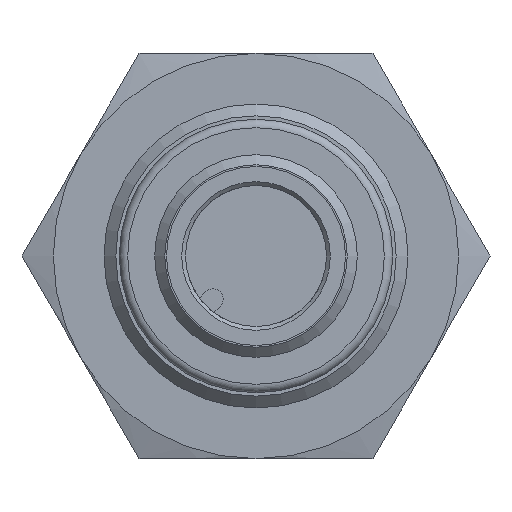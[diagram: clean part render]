
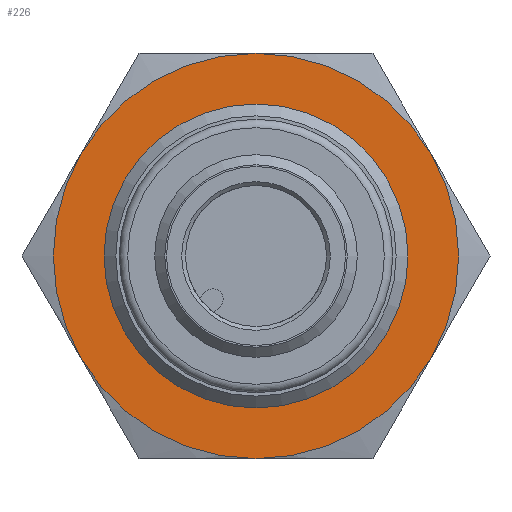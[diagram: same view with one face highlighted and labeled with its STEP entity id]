
A CAD part, left-side view. The second image highlights one B-rep face of the part: STEP entity #226.
In plain terms, the highlighted planar face has unit normal (-1, 0, 0) as drawn and (1, 0, 0) by its records, which use the part's own axes.
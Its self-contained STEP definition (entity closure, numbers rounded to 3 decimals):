
#226 = ADVANCED_FACE( '', ( #374, #375 ), #376, .F. );
#374 = FACE_BOUND( '', #546, .T. );
#375 = FACE_OUTER_BOUND( '', #547, .T. );
#376 = PLANE( '', #548 );
#546 = EDGE_LOOP( '', ( #840 ) );
#547 = EDGE_LOOP( '', ( #841, #842, #843, #844, #845, #846 ) );
#548 = AXIS2_PLACEMENT_3D( '', #847, #848, #849 );
#840 = ORIENTED_EDGE( '', *, *, #1038, .F. );
#841 = ORIENTED_EDGE( '', *, *, #1039, .T. );
#842 = ORIENTED_EDGE( '', *, *, #1040, .T. );
#843 = ORIENTED_EDGE( '', *, *, #1041, .T. );
#844 = ORIENTED_EDGE( '', *, *, #1042, .T. );
#845 = ORIENTED_EDGE( '', *, *, #1043, .T. );
#846 = ORIENTED_EDGE( '', *, *, #1044, .T. );
#847 = CARTESIAN_POINT( '', ( 4., 12., 0. ) );
#848 = DIRECTION( '', ( -1., 0., 0. ) );
#849 = DIRECTION( '', ( 0., 0., 1. ) );
#1038 = EDGE_CURVE( '', #1190, #1190, #1191, .T. );
#1039 = EDGE_CURVE( '', #1192, #1193, #1194, .T. );
#1040 = EDGE_CURVE( '', #1193, #1172, #1195, .T. );
#1041 = EDGE_CURVE( '', #1172, #1163, #1196, .T. );
#1042 = EDGE_CURVE( '', #1163, #1184, #1197, .T. );
#1043 = EDGE_CURVE( '', #1184, #1198, #1199, .T. );
#1044 = EDGE_CURVE( '', #1198, #1192, #1200, .T. );
#1163 = VERTEX_POINT( '', #1858 );
#1172 = VERTEX_POINT( '', #1888 );
#1184 = VERTEX_POINT( '', #1922 );
#1190 = VERTEX_POINT( '', #1948 );
#1191 = CIRCLE( '', #1949, 9. );
#1192 = VERTEX_POINT( '', #1950 );
#1193 = VERTEX_POINT( '', #1951 );
#1194 = CIRCLE( '', #1952, 12. );
#1195 = CIRCLE( '', #1953, 12. );
#1196 = CIRCLE( '', #1954, 12. );
#1197 = CIRCLE( '', #1955, 12. );
#1198 = VERTEX_POINT( '', #1956 );
#1199 = CIRCLE( '', #1957, 12. );
#1200 = CIRCLE( '', #1958, 12. );
#1858 = CARTESIAN_POINT( '', ( 4., 0., 12. ) );
#1888 = CARTESIAN_POINT( '', ( 4., 10.392, 6. ) );
#1922 = CARTESIAN_POINT( '', ( 4., -10.392, 6. ) );
#1948 = CARTESIAN_POINT( '', ( 4., 0., -9. ) );
#1949 = AXIS2_PLACEMENT_3D( '', #2138, #2139, #2140 );
#1950 = CARTESIAN_POINT( '', ( 4., 0., -12. ) );
#1951 = CARTESIAN_POINT( '', ( 4., 10.392, -6. ) );
#1952 = AXIS2_PLACEMENT_3D( '', #2141, #2142, #2143 );
#1953 = AXIS2_PLACEMENT_3D( '', #2144, #2145, #2146 );
#1954 = AXIS2_PLACEMENT_3D( '', #2147, #2148, #2149 );
#1955 = AXIS2_PLACEMENT_3D( '', #2150, #2151, #2152 );
#1956 = CARTESIAN_POINT( '', ( 4., -10.392, -6. ) );
#1957 = AXIS2_PLACEMENT_3D( '', #2153, #2154, #2155 );
#1958 = AXIS2_PLACEMENT_3D( '', #2156, #2157, #2158 );
#2138 = CARTESIAN_POINT( '', ( 4., 0., 0. ) );
#2139 = DIRECTION( '', ( 1., 0., 0. ) );
#2140 = DIRECTION( '', ( 0., 0., -1. ) );
#2141 = CARTESIAN_POINT( '', ( 4., 0., 0. ) );
#2142 = DIRECTION( '', ( 1., 0., 0. ) );
#2143 = DIRECTION( '', ( 0., 0., -1. ) );
#2144 = CARTESIAN_POINT( '', ( 4., 0., 0. ) );
#2145 = DIRECTION( '', ( 1., 0., 0. ) );
#2146 = DIRECTION( '', ( 0., 0., -1. ) );
#2147 = CARTESIAN_POINT( '', ( 4., 0., 0. ) );
#2148 = DIRECTION( '', ( 1., 0., 0. ) );
#2149 = DIRECTION( '', ( 0., 0., -1. ) );
#2150 = CARTESIAN_POINT( '', ( 4., 0., 0. ) );
#2151 = DIRECTION( '', ( 1., 0., 0. ) );
#2152 = DIRECTION( '', ( 0., 0., -1. ) );
#2153 = CARTESIAN_POINT( '', ( 4., 0., 0. ) );
#2154 = DIRECTION( '', ( 1., 0., 0. ) );
#2155 = DIRECTION( '', ( 0., 0., -1. ) );
#2156 = CARTESIAN_POINT( '', ( 4., 0., 0. ) );
#2157 = DIRECTION( '', ( 1., 0., 0. ) );
#2158 = DIRECTION( '', ( 0., 0., -1. ) );
